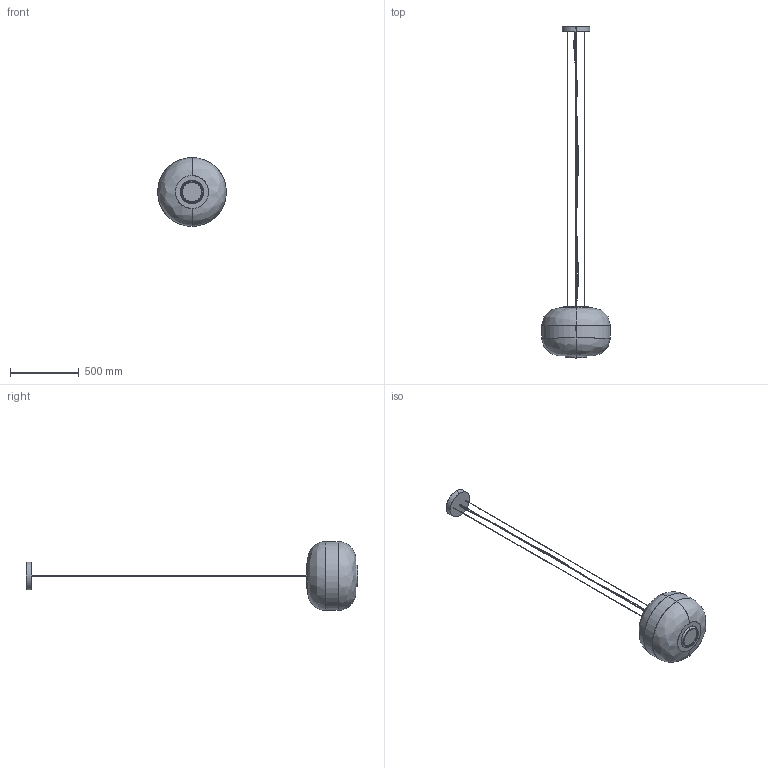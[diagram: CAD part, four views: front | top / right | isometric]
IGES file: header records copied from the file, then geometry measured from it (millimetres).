
Start section: SolidWorks IGES file using analytic representation for surfaces
Global section: file name: \\ARNOLD\compartida\Nueva Coleccion Septiembre 2026\BYGOS_C1363\3D\BYGOS_C1363.IGS; native system: SolidWorks 2023; preprocessor: SolidWorks 2023; author: adrian; date: 260827.162456; units: millimetre
Bounding box: 500 x 2415 x 500 mm (x, y, z)
Surface area: 1792230.3 mm2 (no closed solid volume)
Topology: 0 solids, 0 shells, 53 faces, 1874 edges, 1874 vertices
Faces by surface type: revolution 30, bspline 23
